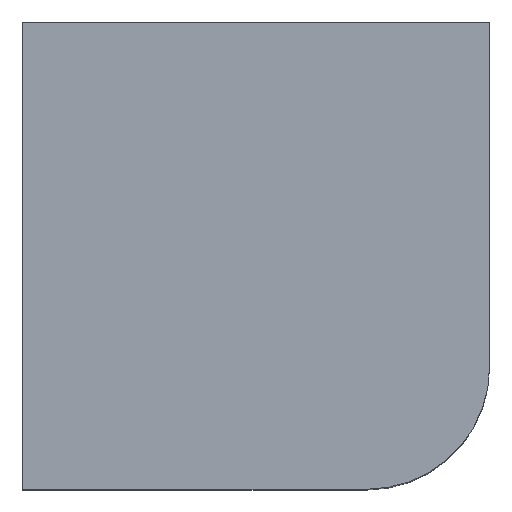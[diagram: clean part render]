
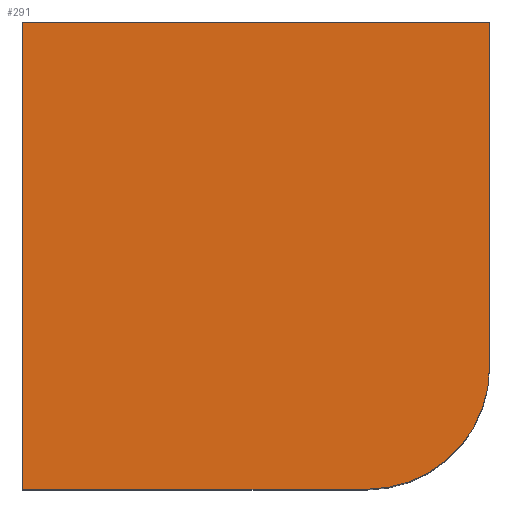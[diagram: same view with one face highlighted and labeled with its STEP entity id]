
A CAD part, top view. The second image highlights one B-rep face of the part: STEP entity #291.
In plain terms, the highlighted planar face has unit normal (0, 0, 1).
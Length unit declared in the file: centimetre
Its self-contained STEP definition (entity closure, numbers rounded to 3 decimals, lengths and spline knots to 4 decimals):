
#13 = VECTOR ( 'NONE', #263, 100. ) ;
#19 = CARTESIAN_POINT ( 'NONE',  ( 1000., 1000., 1000. ) ) ;
#26 = DIRECTION ( 'NONE',  ( 0., -1., 0. ) ) ;
#37 = DIRECTION ( 'NONE',  ( 0., 0., 1. ) ) ;
#50 = CARTESIAN_POINT ( 'NONE',  ( 738.2265, 0., 1000. ) ) ;
#61 = VECTOR ( 'NONE', #584, 100. ) ;
#68 = ORIENTED_EDGE ( 'NONE', *, *, #526, .T. ) ;
#72 = EDGE_CURVE ( 'NONE', #149, #557, #219, .T. ) ;
#91 = CARTESIAN_POINT ( 'NONE',  ( 738.2265, 261.7735, 1000. ) ) ;
#111 = AXIS2_PLACEMENT_3D ( 'NONE', #268, #37, #271 ) ;
#114 = CARTESIAN_POINT ( 'NONE',  ( 1000., 1000., 1000. ) ) ;
#120 = CARTESIAN_POINT ( 'NONE',  ( 1000., 261.7735, 1000. ) ) ;
#122 = CARTESIAN_POINT ( 'NONE',  ( 0., 1000., 1000. ) ) ;
#126 = LINE ( 'NONE', #122, #243 ) ;
#129 = VERTEX_POINT ( 'NONE', #409 ) ;
#149 = VERTEX_POINT ( 'NONE', #120 ) ;
#182 = ORIENTED_EDGE ( 'NONE', *, *, #558, .T. ) ;
#215 = LINE ( 'NONE', #397, #61 ) ;
#219 = LINE ( 'NONE', #114, #13 ) ;
#228 = DIRECTION ( 'NONE',  ( 1., 0., 0. ) ) ;
#234 = VERTEX_POINT ( 'NONE', #50 ) ;
#243 = VECTOR ( 'NONE', #500, 100. ) ;
#247 = CARTESIAN_POINT ( 'NONE',  ( 0., 1000., 1000. ) ) ;
#253 = ORIENTED_EDGE ( 'NONE', *, *, #72, .T. ) ;
#254 = LINE ( 'NONE', #247, #300 ) ;
#263 = DIRECTION ( 'NONE',  ( 0., 1., 0. ) ) ;
#268 = CARTESIAN_POINT ( 'NONE',  ( 0., 0., 1000. ) ) ;
#271 = DIRECTION ( 'NONE',  ( 1., 0., 0. ) ) ;
#279 = PLANE ( 'NONE',  #111 ) ;
#291 = ADVANCED_FACE ( 'NONE', ( #506 ), #279, .T. ) ;
#296 = EDGE_CURVE ( 'NONE', #234, #149, #416, .T. ) ;
#300 = VECTOR ( 'NONE', #26, 100. ) ;
#396 = ORIENTED_EDGE ( 'NONE', *, *, #296, .T. ) ;
#397 = CARTESIAN_POINT ( 'NONE',  ( 0., 0., 1000. ) ) ;
#402 = EDGE_CURVE ( 'NONE', #557, #604, #126, .T. ) ;
#409 = CARTESIAN_POINT ( 'NONE',  ( 0., 0., 1000. ) ) ;
#416 = CIRCLE ( 'NONE', #435, 261.7735 ) ;
#435 = AXIS2_PLACEMENT_3D ( 'NONE', #91, #464, #228 ) ;
#438 = CARTESIAN_POINT ( 'NONE',  ( 0., 1000., 1000. ) ) ;
#460 = ORIENTED_EDGE ( 'NONE', *, *, #402, .T. ) ;
#464 = DIRECTION ( 'NONE',  ( 0., 0., 1. ) ) ;
#500 = DIRECTION ( 'NONE',  ( -1., 0., 0. ) ) ;
#506 = FACE_OUTER_BOUND ( 'NONE', #576, .T. ) ;
#526 = EDGE_CURVE ( 'NONE', #604, #129, #254, .T. ) ;
#557 = VERTEX_POINT ( 'NONE', #19 ) ;
#558 = EDGE_CURVE ( 'NONE', #129, #234, #215, .T. ) ;
#576 = EDGE_LOOP ( 'NONE', ( #182, #396, #253, #460, #68 ) ) ;
#584 = DIRECTION ( 'NONE',  ( 1., 0., 0. ) ) ;
#604 = VERTEX_POINT ( 'NONE', #438 ) ;
